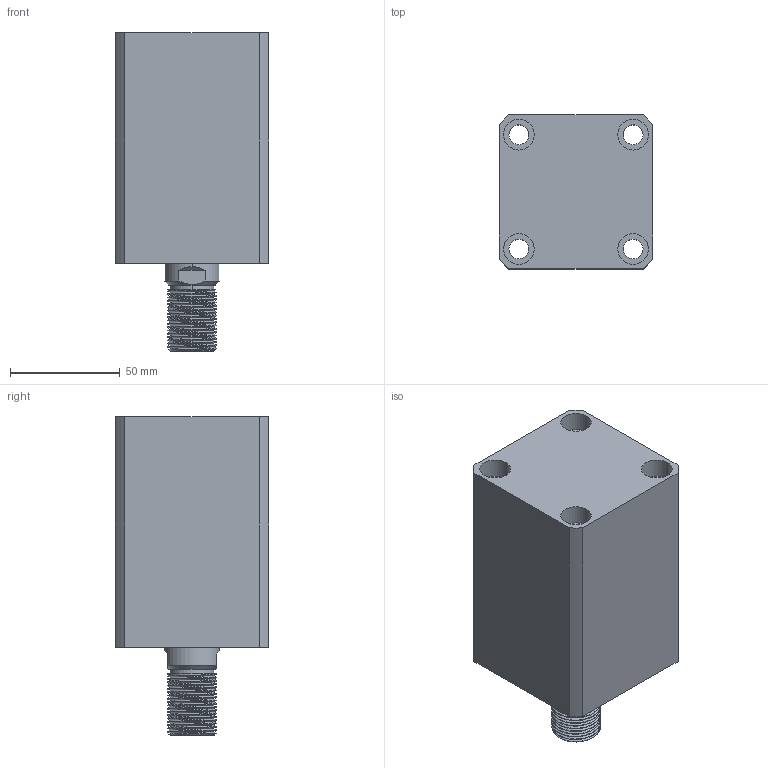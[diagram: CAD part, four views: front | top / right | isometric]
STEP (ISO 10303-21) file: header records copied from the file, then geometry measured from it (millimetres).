
FILE_DESCRIPTION (( 'STEP AP214' ), '1' );
FILE_NAME ('chtb-sd40x50w_asm.STEP', '2018-06-08T07:00:46', ( 'Windows' ), ( 'Microsoft' ), 'SwSTEP 2.0', 'SolidWorks 2015', '' );
FILE_SCHEMA (( 'AUTOMOTIVE_DESIGN' ));
Length unit declared in the file: millimetre
Products named in the file (4): CHTB-SD40X50WHSG; CHTB-SD40X50NBT; CHTB-SD40QG; chtb-sd40x50w_asm
Assembly tree (3 placements, depth 2):
  chtb-sd40x50w_asm
    CHTB-SD40QG
    CHTB-SD40X50NBT
    CHTB-SD40X50WHSG
Bounding box: 70 x 70 x 145 mm (x, y, z)
Volume: 447896.8 mm3; surface area: 90921.1 mm2
Topology: 3 solids, 4 shells, 203 faces, 533 edges, 355 vertices
Faces by surface type: cylinder 118, plane 40, bspline 16, cone 15, torus 14
Entity records: 13425 total; most frequent: CARTESIAN_POINT 8554, ORIENTED_EDGE 1054, DIRECTION 914, EDGE_CURVE 527, AXIS2_PLACEMENT_3D 380, VERTEX_POINT 355, EDGE_LOOP 240, ADVANCED_FACE 203
